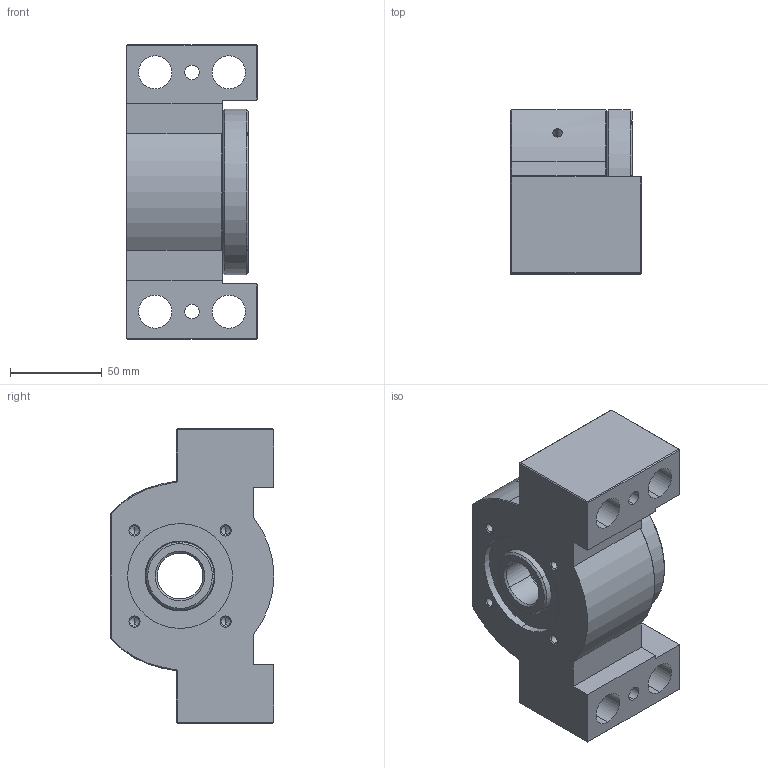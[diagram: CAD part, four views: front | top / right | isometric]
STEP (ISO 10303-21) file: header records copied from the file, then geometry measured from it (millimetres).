
FILE_DESCRIPTION (( 'STEP AP203' ), '1' );
FILE_NAME ('SBK25DF²Õ¦X.STEP', '2010-08-13T12:10:09', ( '' ), ( '' ), 'SwSTEP 2.0', 'SolidWorks 2008', '' );
FILE_SCHEMA (( 'CONFIG_CONTROL_DESIGN' ));
Length unit declared in the file: millimetre
Products named in the file (1): SBK25DF組合
Bounding box: 71 x 89 x 160 mm (x, y, z)
Volume: 577834.1 mm3; surface area: 145428.2 mm2
Topology: 42 solids, 42 shells, 468 faces, 1134 edges, 684 vertices
Faces by surface type: cylinder 145, cone 133, plane 88, sphere 64, torus 38
Entity records: 12589 total; most frequent: DIRECTION 2401, CARTESIAN_POINT 2228, ORIENTED_EDGE 1908, AXIS2_PLACEMENT_3D 1008, EDGE_CURVE 954, VERTEX_POINT 588, CIRCLE 539, EDGE_LOOP 532
